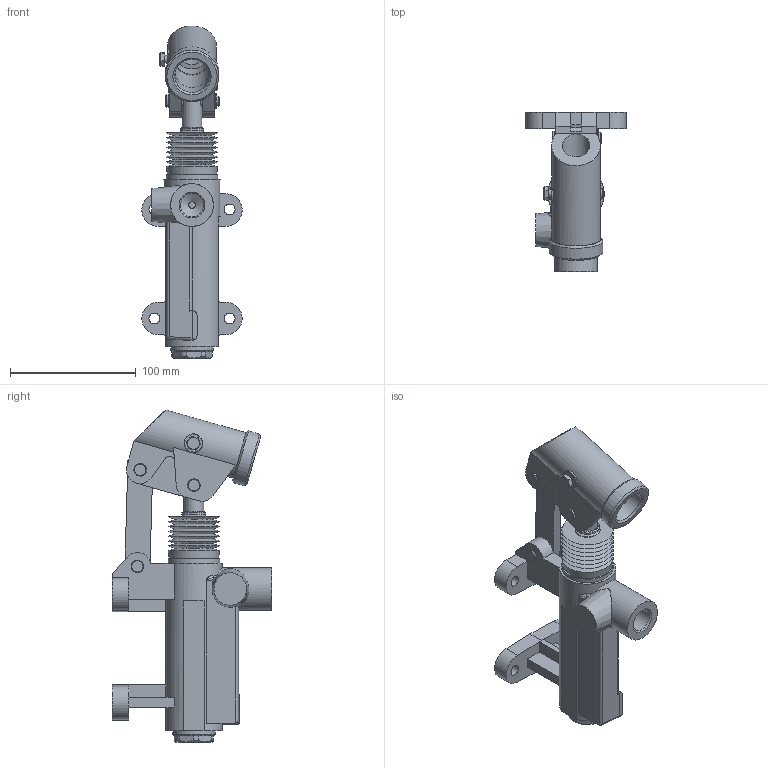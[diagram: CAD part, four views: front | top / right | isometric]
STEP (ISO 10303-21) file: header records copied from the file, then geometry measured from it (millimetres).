
FILE_DESCRIPTION(/* description */ ('Unknown'),/* implementation_level */ '2;1');
FILE_NAME(/* name */ 'HP50ES',/* time_stamp */ '2024-11-27T14:27:48+01:00',/* author */ ('Unknown'),/* organization */ ('Unknown'),/* preprocessor_version */ 'ST-DEVELOPER v19.4',/* originating_system */ 'Solid Edge',/* authorisation */ 'Unknown');
FILE_SCHEMA (('AUTOMOTIVE_DESIGN {1 0 10303 214 3 1 1}'));
Length unit declared in the file: millimetre
Products named in the file (1): HP50ES
Bounding box: 79.92 x 126.87 x 264.56 mm (x, y, z)
Volume: 115042.4 mm3; surface area: 131641.8 mm2
Topology: 6 solids, 7 shells, 445 faces, 1132 edges, 726 vertices
Faces by surface type: plane 208, cylinder 158, cone 54, bspline 12, torus 10, sphere 3
Full cylindrical faces by diameter (mm): 1.698 x2, 4.995 x2, 5.095 x2, 5.994 x3, 6 x2, 7.592 x1, 7.792 x6, 7.992 x4, 8.092 x3, 8.1 x4, 8.392 x1, 8.591 x4, 9.99 x3, 10.366 x1, 14.985 x1, 15.185 x1, 15.784 x1, 15.984 x1, 16.983 x2, 17.782 x1, 18.612 x3, 18.981 x1, 19.98 x1, 21.978 x1, 22 x1, 23.976 x1, 25.974 x1, 27.473 x1, 27.5 x2, 29 x2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
Entity records: 16101 total; most frequent: CARTESIAN_POINT 3821, DIRECTION 2165, ORIENTED_EDGE 1854, EDGE_CURVE 927, AXIS2_PLACEMENT_3D 862, VERTEX_POINT 657, FACE_BOUND 656, EDGE_LOOP 655
